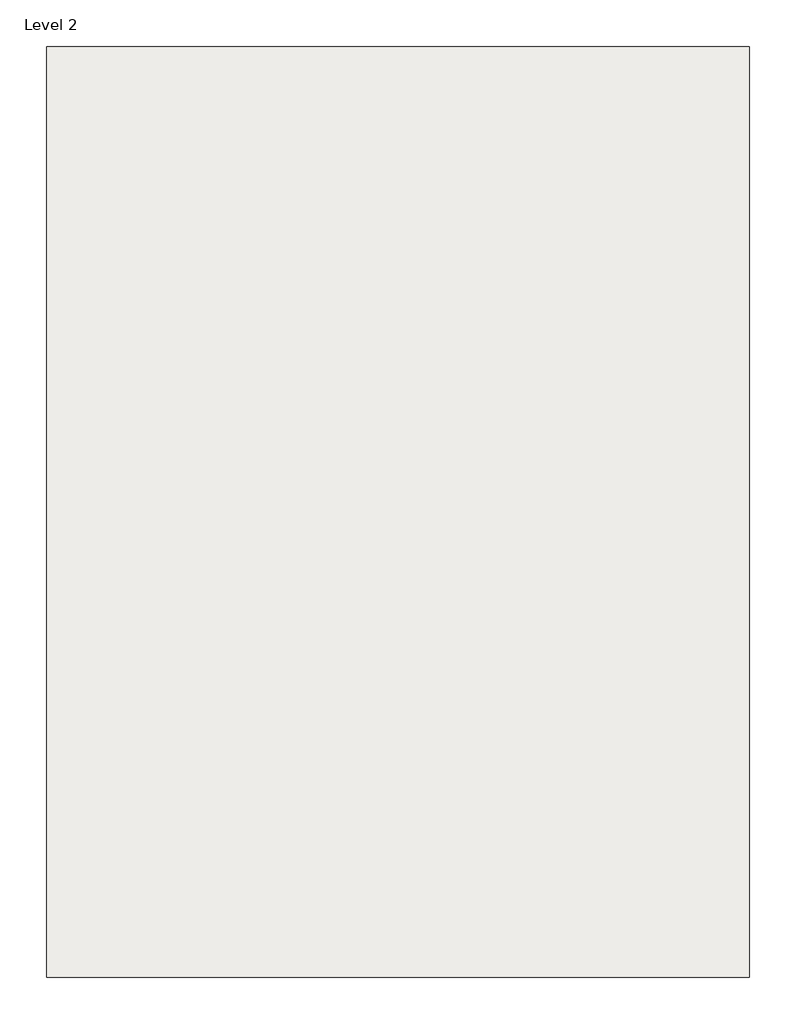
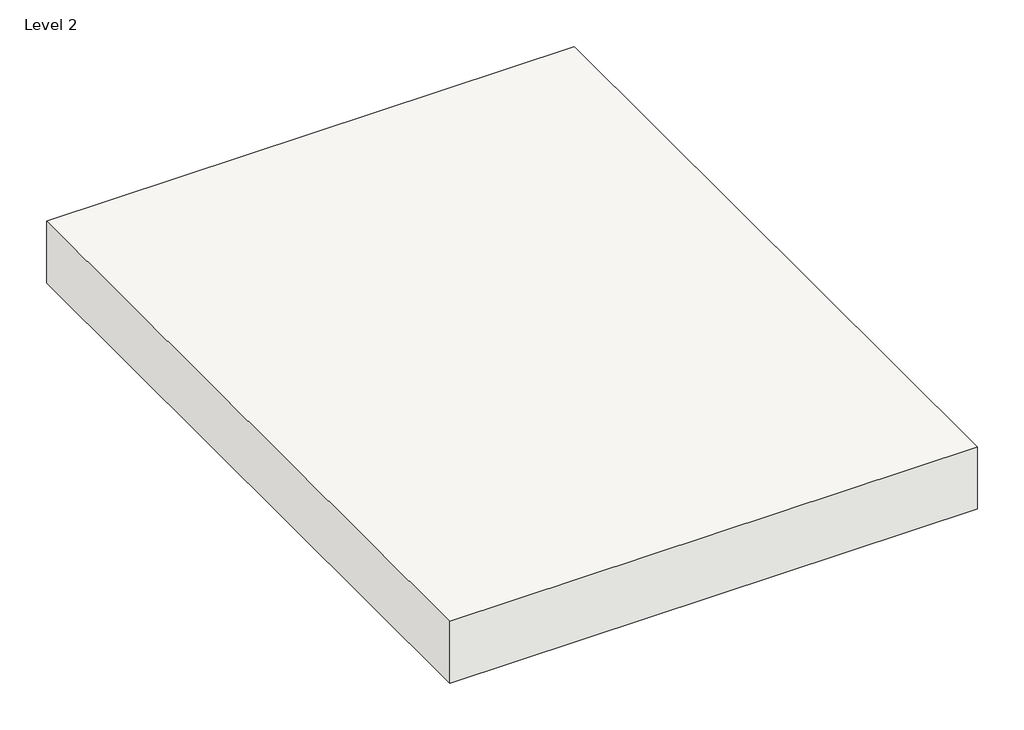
# One storey: 1 slab.
"""IFC4 building model written with IfcOpenShell, lengths in millimetres."""

from ifc_helpers import new_model, si_unit, frame, origin, place, context, project, spatial, polyline, outline, extrude, element, save

model = new_model("IFC4")

# Units and contexts
model_context = context("Model", 3, world=origin())
ifc_project = project(units=[si_unit("LENGTHUNIT", "METRE", prefix="MILLI")], contexts=[model_context])

# Site, building, storey
site = spatial("IfcSite", under=ifc_project)
building = spatial("IfcBuilding", under=site)
storey = spatial("IfcBuildingStorey", under=building, Name="Level 2", Elevation=3200.0)

# Slab
placement = place(None, origin())
element("IfcSlab", 1, ObjectType="Concrete Slab - 6\"", at=placement, inside=storey, context=model_context, shape_type="SweptSolid", body=[
    extrude(outline(polyline([(11066.3756115, 13721.4664981), (14289.5756115, 13721.4664981), (14289.5756115, 9455.4664981), (11066.3756115, 9455.4664981), (11066.3756115, 13721.4664981)])), frame((0.0, 0.0, 2985.0), z_axis=(0.0, 0.0, 1.0), x_axis=(1.0, 0.0, 0.0)), (0.0, 0.0, 1.0), 400.0),
])

save(model, "model.ifc")
